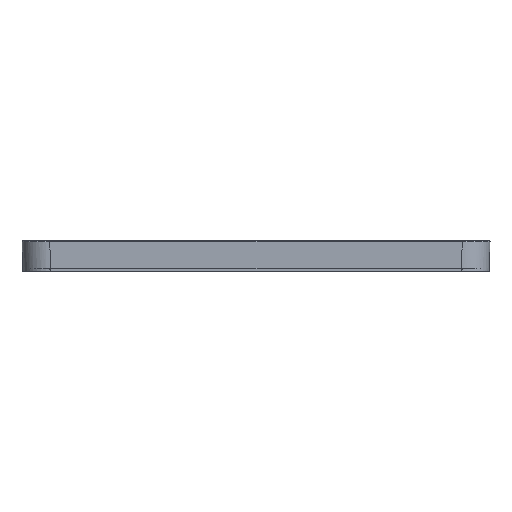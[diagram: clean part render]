
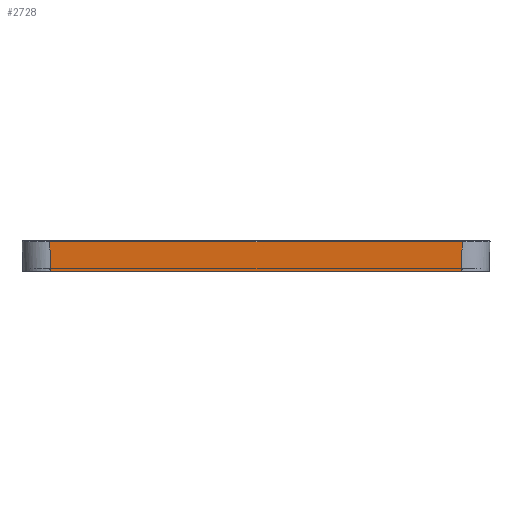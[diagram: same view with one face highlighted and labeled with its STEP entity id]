
A CAD part, front view. The second image highlights one B-rep face of the part: STEP entity #2728.
In plain terms, the highlighted planar face has unit normal (0, -1, -0.031).
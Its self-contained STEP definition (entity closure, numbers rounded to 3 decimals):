
#2728=ADVANCED_FACE('',(#3225),#2963,.T.);
#2963=PLANE('',#8312);
#3225=FACE_OUTER_BOUND('',#3574,.T.);
#3574=EDGE_LOOP('',(#5185,#5186,#5187,#5188));
#5185=ORIENTED_EDGE('',*,*,#6582,.F.);
#5186=ORIENTED_EDGE('',*,*,#6583,.T.);
#5187=ORIENTED_EDGE('',*,*,#5930,.T.);
#5188=ORIENTED_EDGE('',*,*,#5920,.T.);
#5367=VERTEX_POINT('',#10101);
#5368=VERTEX_POINT('',#10103);
#5377=VERTEX_POINT('',#10155);
#5772=VERTEX_POINT('',#11985);
#5920=EDGE_CURVE('',#5368,#5367,#6717,.T.);
#5930=EDGE_CURVE('',#5377,#5368,#6722,.T.);
#6582=EDGE_CURVE('',#5772,#5367,#7253,.T.);
#6583=EDGE_CURVE('',#5772,#5377,#7254,.T.);
#6717=LINE('',#10102,#7380);
#6722=LINE('',#10154,#7385);
#7253=LINE('',#11986,#7920);
#7254=LINE('',#11988,#7921);
#7380=VECTOR('',#8514,1.);
#7385=VECTOR('',#8523,1.);
#7920=VECTOR('',#9768,1.);
#7921=VECTOR('',#9771,1.);
#8312=AXIS2_PLACEMENT_3D('',#11989,#9772,#9773);
#8514=DIRECTION('',(1.,0.,0.));
#8523=DIRECTION('',(0.031,0.031,-0.999));
#9768=DIRECTION('',(-0.031,0.031,-0.999));
#9771=DIRECTION('',(-1.,0.,0.));
#9772=DIRECTION('',(0.,-1.,-0.031));
#9773=DIRECTION('',(1.,0.,0.));
#10101=CARTESIAN_POINT('',(73.944,-124.669,-10.537));
#10102=CARTESIAN_POINT('',(-73.837,-124.669,-10.537));
#10103=CARTESIAN_POINT('',(-73.837,-124.669,-10.537));
#10154=CARTESIAN_POINT('',(-74.138,-124.97,-0.95));
#10155=CARTESIAN_POINT('',(-74.168,-125.,0.));
#11985=CARTESIAN_POINT('',(74.276,-125.,0.));
#11986=CARTESIAN_POINT('',(74.658,-125.383,12.184));
#11988=CARTESIAN_POINT('',(-89.123,-125.,0.));
#11989=CARTESIAN_POINT('',(-89.123,-124.983,-0.537));
